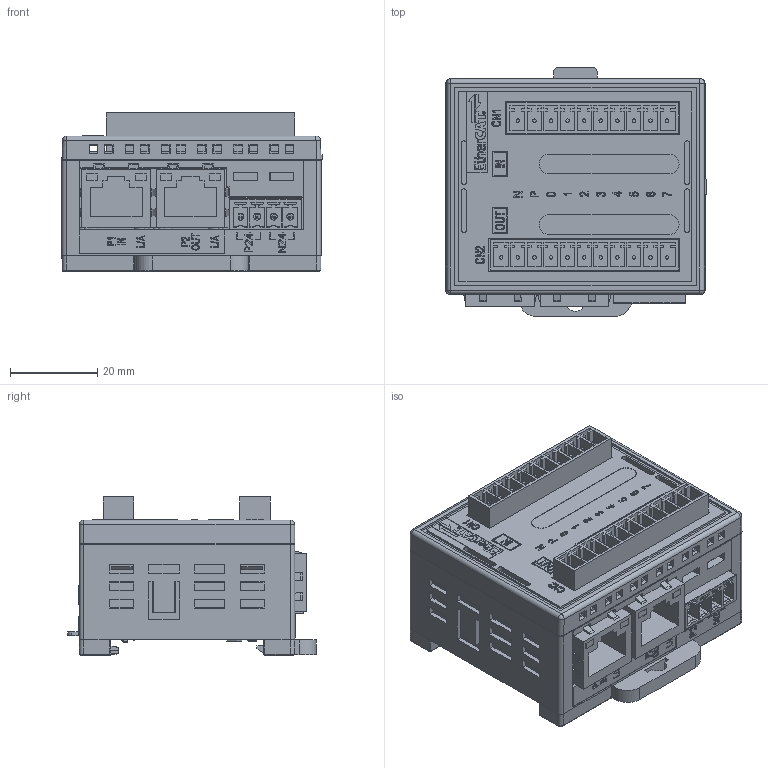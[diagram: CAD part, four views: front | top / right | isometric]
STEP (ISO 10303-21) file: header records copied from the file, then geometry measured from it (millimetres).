
FILE_DESCRIPTION((''),'2;1');
FILE_NAME('ECCBP88','2026-05-11T14:53:08',('gijyu181'),(''),'CREO PARAMETRIC BY PTC INC, 2018050','CREO PARAMETRIC BY PTC INC, 2018050','');
FILE_SCHEMA(('CONFIG_CONTROL_DESIGN','SHAPE_APPEARANCE_LAYERS_GROUPS'));
Products named in the file (1): ECCBP88
Bounding box: 59.75 x 57.15 x 36.3 mm (x, y, z)
Volume: 68581.3 mm3; surface area: 40786.6 mm2
Topology: 1 solids, 17 shells, 5792 faces, 15998 edges, 10559 vertices
Faces by surface type: plane 4325, cylinder 724, extrusion 607, sphere 44, cone 42, torus 26, bspline 24
Entity records: 232662 total; most frequent: CARTESIAN_POINT 40488, ORIENTED_EDGE 31960, DIRECTION 26854, EDGE_CURVE 15984, VECTOR 13578, LINE 12971, VERTEX_POINT 10559, PRESENTATION_STYLE_ASSIGNMENT 9188
